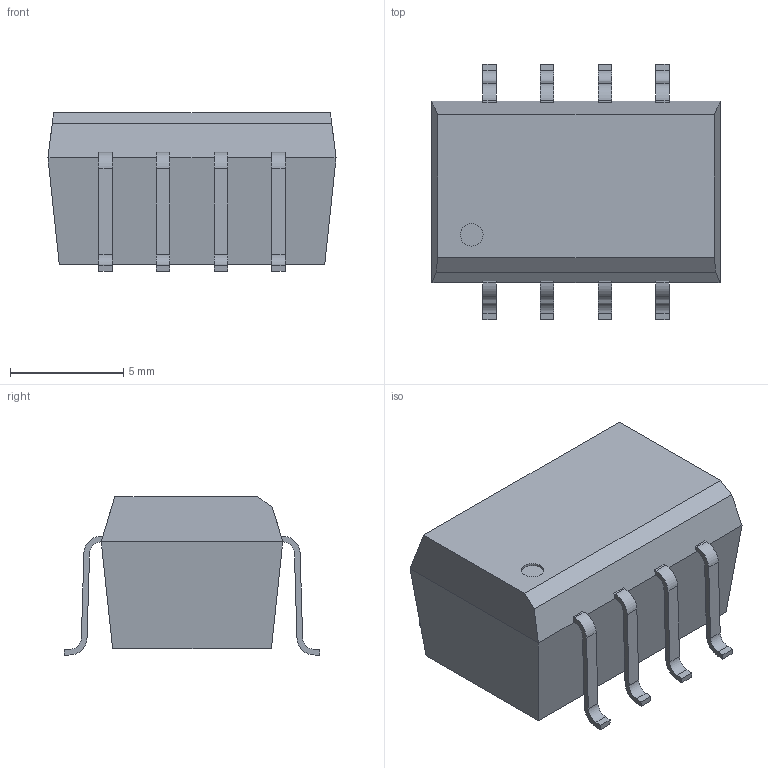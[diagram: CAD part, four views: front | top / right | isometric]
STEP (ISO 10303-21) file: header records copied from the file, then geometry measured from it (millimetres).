
FILE_DESCRIPTION (( 'STEP AP214' ), '1' );
FILE_NAME ('tsm-single-12-and 15Vin.STEP', '2017-10-24T12:00:35', ( '' ), ( '' ), 'SwSTEP 2.0', 'SolidWorks 2013', '' );
FILE_SCHEMA (( 'AUTOMOTIVE_DESIGN' ));
Length unit declared in the file: millimetre
Products named in the file (1): tsm-single-12-and 15Vin
Bounding box: 12.7 x 11.28 x 7 mm (x, y, z)
Volume: 620.5 mm3; surface area: 512.2 mm2
Topology: 1 solids, 1 shells, 118 faces, 325 edges, 210 vertices
Faces by surface type: plane 84, cylinder 34
Entity records: 5049 total; most frequent: CARTESIAN_POINT 654, ORIENTED_EDGE 650, DIRECTION 631, EDGE_CURVE 325, VECTOR 257, LINE 257, VERTEX_POINT 210, AXIS2_PLACEMENT_3D 187
